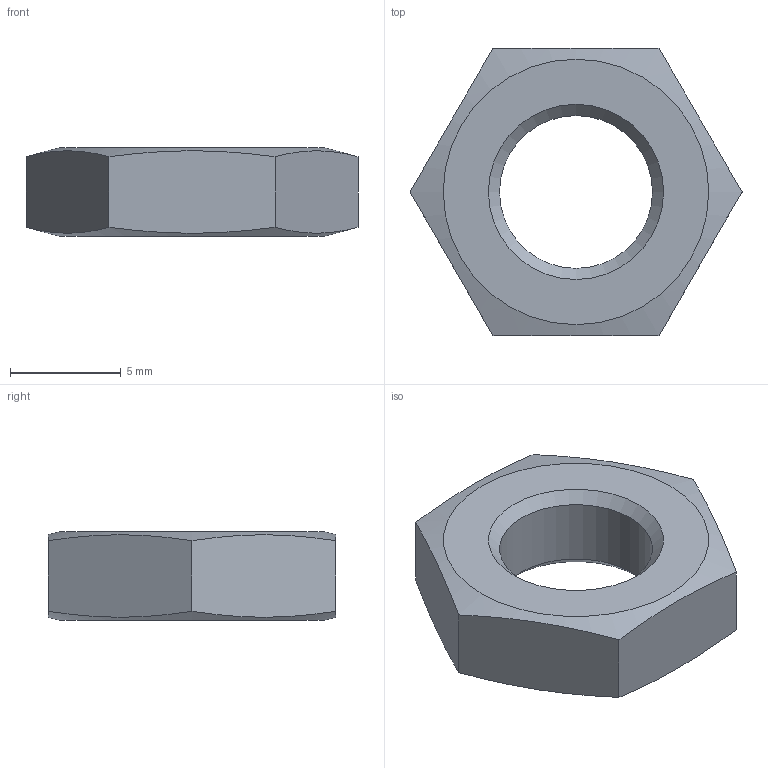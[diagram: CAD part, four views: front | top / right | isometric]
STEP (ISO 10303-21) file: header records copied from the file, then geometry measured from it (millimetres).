
FILE_DESCRIPTION( ( 'STEP AP214' ), '1' );
FILE_NAME( 'N:/Engineering/CAD_Solid/Wirbelstrom/Wirbelstromsensoren/Muttern/Mutter_M8x1.stp', '2011-12-15T12:04:56', ( ' ' ), ( ' ' ), 'XStep 1.0', ' ', ' ' );
FILE_SCHEMA( ( 'CONFIG_CONTROL_DESIGN) ( )' ) );
Length unit declared in the file: metre
Products named in the file (1): 1
Bounding box: 15.01 x 13 x 4 mm (x, y, z)
Volume: 420.8 mm3; surface area: 454.5 mm2
Topology: 1 solids, 1 shells, 13 faces, 29 edges, 18 vertices
Faces by surface type: plane 8, cone 4, cylinder 1
Full cylindrical faces by diameter (mm): 6.917 x1
Entity records: 492 total; most frequent: CARTESIAN_POINT 116, ORIENTED_EDGE 48, DIRECTION 46, EDGE_CURVE 24, AXIS2_PLACEMENT_3D 20, EDGE_LOOP 20, VERTEX_POINT 18, FACE_OUTER_BOUND 14
